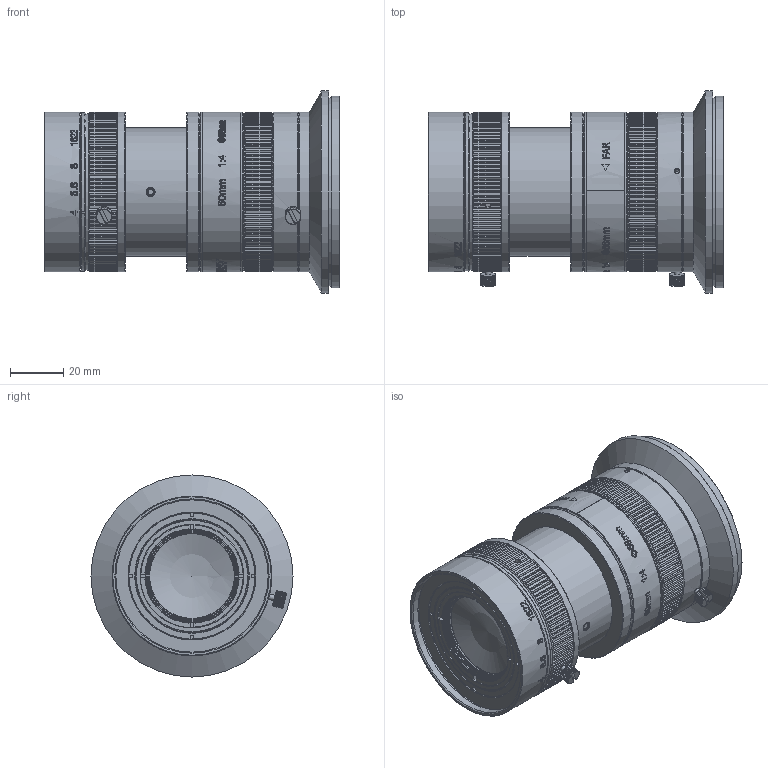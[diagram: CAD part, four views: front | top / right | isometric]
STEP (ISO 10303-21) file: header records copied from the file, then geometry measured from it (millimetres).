
FILE_DESCRIPTION(/* description */ (''),/* implementation_level */ '2;1');
FILE_NAME(/* name */ '60040.stp',/* time_stamp */ '2025-12-30T17:13:49+08:00',/* author */ (''),/* organization */ (''),/* preprocessor_version */ 'ST-DEVELOPER v16.7',/* originating_system */ 'SIEMENS PLM Software NX 12.0',/* authorisation */ '');
FILE_SCHEMA (('AUTOMOTIVE_DESIGN { 1 0 10303 214 3 1 1 1 }'));
Length unit declared in the file: millimetre
Products named in the file (1): YC1059244A8C2qff
Bounding box: 111.02 x 76 x 76 mm (x, y, z)
Volume: 177493.4 mm3; surface area: 87904.8 mm2
Topology: 17 solids, 20 shells, 2879 faces, 7855 edges, 5126 vertices
Faces by surface type: plane 1327, cone 774, cylinder 519, bspline 230, torus 26, sphere 2, revolution 1
Full cylindrical faces by diameter (mm): 1.6 x14, 2 x11, 2.1 x6, 3 x1, 3.5 x6, 31.89 x1, 32.078 x1, 32.99 x1, 33.49 x1, 33.6 x2, 33.99 x1, 34.4 x2, 34.49 x1, 34.7 x1, 34.8 x1, 34.99 x1, 35.208 x1, 35.266 x1, 38 x1, 38.5 x1, 38.8 x2, 39 x2, 39.2 x1, 39.7 x1, 42.3 x1, 42.4 x1, 42.72 x1, 46.32 x2, 46.501 x2, 47.5 x1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
Entity records: 126484 total; most frequent: CARTESIAN_POINT 56373, ORIENTED_EDGE 15134, DIRECTION 13270, EDGE_CURVE 7567, VERTEX_POINT 5077, AXIS2_PLACEMENT_3D 4903, LINE 3463, VECTOR 3463
